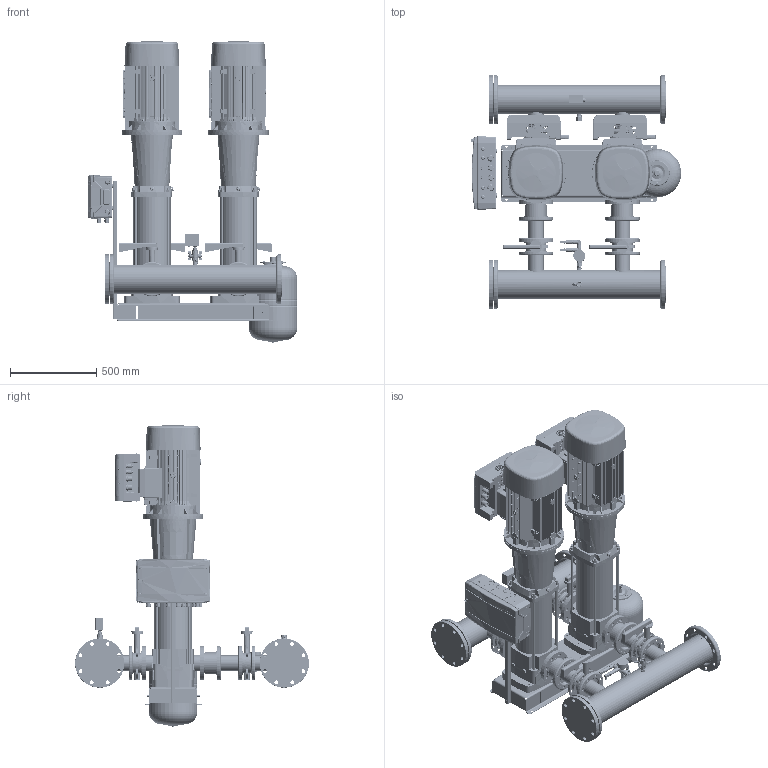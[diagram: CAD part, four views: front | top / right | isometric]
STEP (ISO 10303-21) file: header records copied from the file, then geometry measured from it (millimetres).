
FILE_DESCRIPTION(('CATIA V5 STEP Exchange','CAx-IF Rec.Pracs.--- Model Styling and Organization---1.4--- 2014-01-23','CAx-IF Rec.Pracs.---3D Tessellated Data Validation Properties---0.5---2014-09-14'),'2;1');
FILE_NAME('C:\Users\78432\YandexDisk\Drawings and 3D\3D Hydro Booster\Hydro-ME 3D\Hydro Models\Hydro ME 2 CRV45-xx\Hydro ME 2 CRVE45-5-2.stp','2023-09-21T07:30:30+00:00',('none'),('none'),'CATIA Version 5-6 Release 2019 SP6','CATIA V5 STEP AP242 v1','none');
FILE_SCHEMA(('AP242_MANAGED_MODEL_BASED_3D_ENGINEERING_MIM_LF {1 0 10303 442 1 1 4}'));
Length unit declared in the file: millimetre
Products named in the file (52): Hydro ME 2 CRVE45-5-2; 92051011; CRV45-5-2 set; CRV 45-5-2_DIN_18.5kW; Base; Flange.1; Flange.2; Sleeve; Pumphead; Staybolt.1; Staybolt.2; Staybolt.3; Staybolt.4; AirVent; Motor; Plug; Non-Return Valve DN80 cpl.; 92802787; 00id2588; Buttefly Valve DN80 cpl.; 92802780; 96619630#01_GMR; 91070073; 91071907; 99110037; SAJ PDH30 11-18,5kW; 97941448; 405801; 91041071; 91070076; 99110040; 97941485; 00ID6961; Holder and CP 18mod; 92878909; Control ME (18mod); 2 sensors + manometer cpl.; manometr 16 bar; RPD-I-G1_2; 9021-01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
Assembly tree (69 placements, depth 4):
  Hydro ME 2 CRVE45-5-2
    92051011
    CRV45-5-2 set  x2
      CRV 45-5-2_DIN_18.5kW
        Base
        Flange.1
        Flange.2
        Sleeve
        Pumphead
        Staybolt.1
        Staybolt.2
        Staybolt.3
        Staybolt.4
        AirVent
        Motor
        Plug
      Non-Return Valve DN80 cpl.
        92802787
        00id2588  x2
      Buttefly Valve DN80 cpl.
        92802780
        00id2588  x2
      96619630#01_GMR
        91070073  x2
        91071907
        99110037  x2
      SAJ PDH30 11-18,5kW
    97941448  x2
      405801
      91041071
      91070073
      91070076
      99110037
      99110040
      97941485
    00ID6961  x2
    Holder and CP 18mod
      92878909
      Control ME (18mod)
    2 sensors + manometer cpl.
      manometr 16 bar
      RPD-I-G1_2  x2
      9021-01
      2070 1/2-1/2
      _2020 1/2-1/2
      98594078
    Tank 24L cpl.
      DN20_FF_BF_47.300.20
      9021-03
    Relay cpl.
      Relay RD-2R
      DN20_FF_BF_47.300.20
      2530 3/4-1/2
      _2530 1/2-1/4
    91078139
  WAV-24(D140 1'')
Bounding box: 1216.82 x 1352.3 x 1744.85 mm (x, y, z)
Volume: 216387000.9 mm3; surface area: 16913469.2 mm2
Topology: 198 solids, 3166 shells, 31503 faces, 99880 edges, 72614 vertices
Faces by surface type: plane 14296, bspline 7954, cylinder 7159, cone 1457, torus 528, sphere 109
Entity records: 834762 total; most frequent: CARTESIAN_POINT 402323, ORIENTED_EDGE 106221, EDGE_CURVE 57681, DIRECTION 50947, VERTEX_POINT 41391, VECTOR 27476, LINE 27476, B_SPLINE_CURVE_WITH_KNOTS 21177
